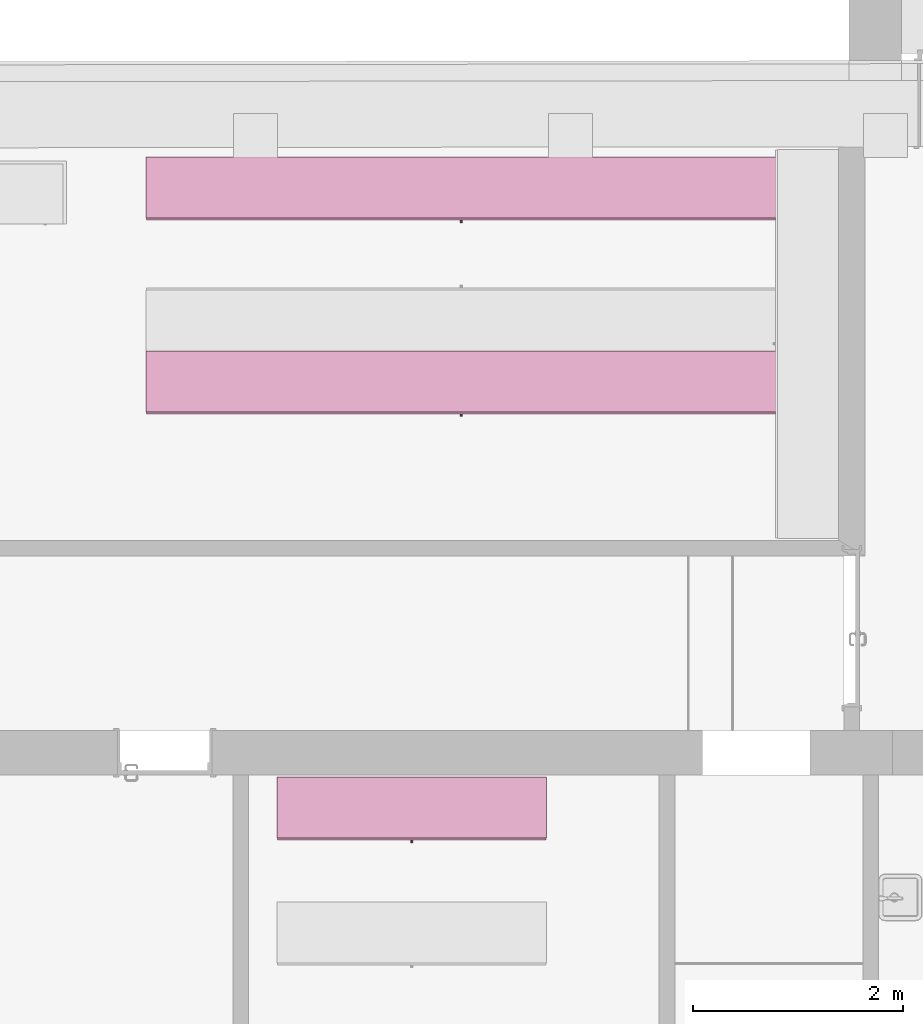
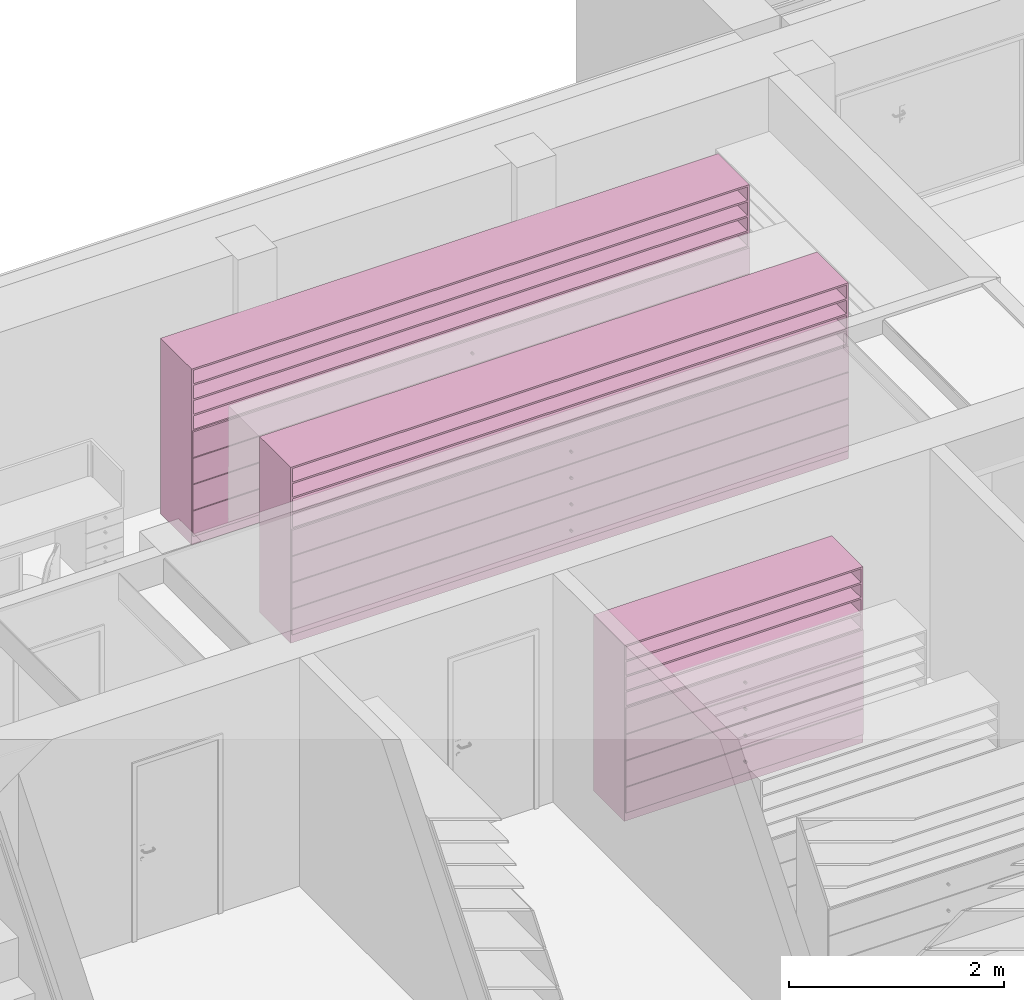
# One storey, part 99 of 127: 3 furnishings.
"""IFC2X3 building model written with IfcOpenShell, lengths in millimetres."""

from ifc_helpers import new_model, entity, si_unit, converted_unit, derived_unit, money_unit, direction, frame, origin_with_axes, place, context, subcontext, project, spatial, faceted_brep, source, transform, mapped, type_object, element, save


model = new_model("IFC2X3")

# Units and contexts
model_context = context("Model", 3, precision=1e-05, world=origin_with_axes(), true_north=direction((0.0, 1.0)))
body_context = subcontext(model_context, "Body", "Model", "MODEL_VIEW")
ifc_project = project(units=[si_unit("LENGTHUNIT", "METRE", prefix="MILLI"), si_unit("AREAUNIT", "SQUARE_METRE"), si_unit("VOLUMEUNIT", "CUBIC_METRE"), converted_unit("PLANEANGLEUNIT", "DEGREE", entity("IfcPlaneAngleMeasure", 0.0174532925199), si_unit("PLANEANGLEUNIT", "RADIAN"), dimensions=[0, 0, 0, 0, 0, 0, 0]), si_unit("SOLIDANGLEUNIT", "STERADIAN"), money_unit("EUR"), converted_unit("TIMEUNIT", "Year", entity("IfcTimeMeasure", 31556926.0), si_unit("TIMEUNIT", "SECOND"), dimensions=[0, 0, 1, 0, 0, 0, 0]), si_unit("MASSUNIT", "GRAM", prefix="KILO"), si_unit("THERMODYNAMICTEMPERATUREUNIT", "DEGREE_CELSIUS"), si_unit("LUMINOUSINTENSITYUNIT", "LUMEN"), si_unit("ENERGYUNIT", "JOULE", prefix="MEGA"), derived_unit("THERMALCONDUCTANCEUNIT", [(si_unit("POWERUNIT", "WATT"), 1), (si_unit("LENGTHUNIT", "METRE"), -1), (si_unit("THERMODYNAMICTEMPERATUREUNIT", "KELVIN"), -1)]), derived_unit("SPECIFICHEATCAPACITYUNIT", [(si_unit("ENERGYUNIT", "JOULE"), 1), (si_unit("MASSUNIT", "GRAM", prefix="KILO"), -1), (si_unit("THERMODYNAMICTEMPERATUREUNIT", "KELVIN"), -1)]), derived_unit("MASSDENSITYUNIT", [(si_unit("MASSUNIT", "GRAM", prefix="KILO"), 1), (si_unit("VOLUMEUNIT", "CUBIC_METRE"), -1)])], contexts=[model_context])

# Site, building, storey
site_placement = place(None, origin_with_axes())
site = spatial("IfcSite", under=ifc_project, at=site_placement, Name="Site", CompositionType="ELEMENT")
building_placement = place(site_placement, origin_with_axes())
building = spatial("IfcBuilding", under=site, at=building_placement, Name="Building", CompositionType="ELEMENT")
storey_placement = place(building_placement, origin_with_axes())
storey = spatial("IfcBuildingStorey", under=building, at=storey_placement, Name="1 KORRUS", CompositionType="ELEMENT", Elevation=0.0)

# Furnishings
furnishing_element_type_1 = type_object("IfcFurnishingElementType", Name="Model Element 41")
shared_shape_1 = source(origin_with_axes(), body_context, "Body", "Brep", [
    faceted_brep([(-2565.40668942, 19.0, 0.0), (-2565.40668942, 600.000000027, 0.0), (0.0, 600.000000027, 0.0), (0.0, 19.0, 0.0), (-2565.40668942, 19.0, 100.0), (-2565.40668942, 600.000000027, 100.0), (0.0, 600.000000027, 100.0), (0.0, 19.0, 100.0)], [[[0, 1, 2, 3]], [[0, 4, 5, 1]], [[1, 5, 6, 2]], [[2, 6, 7, 3]], [[3, 7, 4, 0]], [[7, 6, 5, 4]]]),
    faceted_brep([(-19.0, 600.000000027, 119.0), (-19.0, 600.000000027, 1981.0), (-19.0, 581.000000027, 1981.0), (-19.0, 581.000000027, 119.0), (-2546.40668942, 600.000000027, 119.0), (-2546.40668942, 600.000000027, 1981.0), (-2546.40668942, 581.000000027, 1981.0), (-2546.40668942, 581.000000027, 119.0)], [[[0, 1, 2, 3]], [[4, 5, 1, 0]], [[1, 5, 6, 2]], [[3, 2, 6, 7]], [[0, 3, 7, 4]], [[7, 6, 5, 4]]]),
    faceted_brep([(-2565.40668942, 19.0, 100.0), (-2565.40668942, 600.000000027, 100.0), (-2546.40668942, 600.000000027, 100.0), (-2546.40668942, 19.0, 100.0), (-2565.40668942, 19.0, 2000.0), (-2565.40668942, 600.000000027, 2000.0), (-2546.40668942, 600.000000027, 2000.0), (-2546.40668942, 19.0, 2000.0)], [[[0, 1, 2, 3]], [[0, 4, 5, 1]], [[1, 5, 6, 2]], [[2, 6, 7, 3]], [[3, 7, 4, 0]], [[7, 6, 5, 4]]]),
    faceted_brep([(-19.0, 19.0, 100.0), (-19.0, 600.000000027, 100.0), (0.0, 600.000000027, 100.0), (0.0, 19.0, 100.0), (-19.0, 19.0, 2000.0), (-19.0, 600.000000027, 2000.0), (0.0, 600.000000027, 2000.0), (0.0, 19.0, 2000.0)], [[[0, 1, 2, 3]], [[0, 4, 5, 1]], [[1, 5, 6, 2]], [[2, 6, 7, 3]], [[3, 7, 4, 0]], [[7, 6, 5, 4]]]),
    faceted_brep([(-2546.40668942, 19.0, 100.0), (-2546.40668942, 600.000000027, 100.0), (-19.0, 600.000000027, 100.0), (-19.0, 19.0, 100.0), (-2546.40668942, 19.0, 119.0), (-2546.40668942, 600.000000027, 119.0), (-19.0, 600.000000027, 119.0), (-19.0, 19.0, 119.0)], [[[0, 1, 2, 3]], [[0, 4, 5, 1]], [[1, 5, 6, 2]], [[2, 6, 7, 3]], [[3, 7, 4, 0]], [[7, 6, 5, 4]]]),
    faceted_brep([(-2546.40668942, 19.0, 1981.0), (-2546.40668942, 600.000000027, 1981.0), (-19.0, 600.000000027, 1981.0), (-19.0, 19.0, 1981.0), (-2546.40668942, 19.0, 2000.0), (-2546.40668942, 600.000000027, 2000.0), (-19.0, 600.000000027, 2000.0), (-19.0, 19.0, 2000.0)], [[[0, 1, 2, 3]], [[0, 4, 5, 1]], [[1, 5, 6, 2]], [[2, 6, 7, 3]], [[3, 7, 4, 0]], [[7, 6, 5, 4]]]),
    faceted_brep([(-5.0, 19.0, 105.0), (-5.0, 0.0, 105.0), (-2560.40668942, 0.0, 105.0), (-2560.40668942, 19.0, 105.0), (-5.0, 19.0, 395.0), (-5.0, 0.0, 395.0), (-2560.40668942, 0.0, 395.0), (-2560.40668942, 19.0, 395.0)], [[[0, 1, 2, 3]], [[4, 5, 1, 0]], [[1, 5, 6, 2]], [[3, 2, 6, 7]], [[0, 3, 7, 4]], [[7, 6, 5, 4]]]),
    faceted_brep([(-1293.09564955, 0.0, 244.0), (-1294.70334471, 0.0, 250.0), (-1293.09564955, 0.0, 256.0), (-1288.70334471, 0.0, 260.392304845), (-1282.70334471, 0.0, 262.0), (-1276.70334471, 0.0, 260.392304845), (-1272.31103986, 0.0, 256.0), (-1270.70334471, 0.0, 250.0), (-1272.31103986, 0.0, 244.0), (-1276.70334471, 0.0, 239.607695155), (-1282.70334471, 0.0, 238.0), (-1288.70334471, 0.0, 239.607695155), (-1293.09564955, -25.0, 244.0), (-1294.70334471, -25.0, 250.0), (-1293.09564955, -25.0, 256.0), (-1288.70334471, -25.0, 260.392304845), (-1282.70334471, -25.0, 262.0), (-1276.70334471, -25.0, 260.392304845), (-1272.31103986, -25.0, 256.0), (-1270.70334471, -25.0, 250.0), (-1272.31103986, -25.0, 244.0), (-1276.70334471, -25.0, 239.607695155), (-1282.70334471, -25.0, 238.0), (-1288.70334471, -25.0, 239.607695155)], [[[0, 1, 2, 3, 4, 5, 6, 7, 8, 9, 10, 11]], [[0, 12, 13, 1]], [[1, 13, 14, 2]], [[2, 14, 15, 3]], [[3, 15, 16, 4]], [[4, 16, 17, 5]], [[5, 17, 18, 6]], [[6, 18, 19, 7]], [[7, 19, 20, 8]], [[8, 20, 21, 9]], [[9, 21, 22, 10]], [[10, 22, 23, 11]], [[11, 23, 12, 0]], [[12, 23, 22, 21, 20, 19, 18, 17, 16, 15, 14, 13]]]),
    faceted_brep([(-5.0, 19.0, 405.0), (-5.0, 0.0, 405.0), (-2560.40668942, 0.0, 405.0), (-2560.40668942, 19.0, 405.0), (-5.0, 19.0, 695.0), (-5.0, 0.0, 695.0), (-2560.40668942, 0.0, 695.0), (-2560.40668942, 19.0, 695.0)], [[[0, 1, 2, 3]], [[4, 5, 1, 0]], [[1, 5, 6, 2]], [[3, 2, 6, 7]], [[0, 3, 7, 4]], [[7, 6, 5, 4]]]),
    faceted_brep([(-1293.09564955, 0.0, 544.0), (-1294.70334471, 0.0, 550.0), (-1293.09564955, 0.0, 556.0), (-1288.70334471, 0.0, 560.392304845), (-1282.70334471, 0.0, 562.0), (-1276.70334471, 0.0, 560.392304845), (-1272.31103986, 0.0, 556.0), (-1270.70334471, 0.0, 550.0), (-1272.31103986, 0.0, 544.0), (-1276.70334471, 0.0, 539.607695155), (-1282.70334471, 0.0, 538.0), (-1288.70334471, 0.0, 539.607695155), (-1293.09564955, -25.0, 544.0), (-1294.70334471, -25.0, 550.0), (-1293.09564955, -25.0, 556.0), (-1288.70334471, -25.0, 560.392304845), (-1282.70334471, -25.0, 562.0), (-1276.70334471, -25.0, 560.392304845), (-1272.31103986, -25.0, 556.0), (-1270.70334471, -25.0, 550.0), (-1272.31103986, -25.0, 544.0), (-1276.70334471, -25.0, 539.607695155), (-1282.70334471, -25.0, 538.0), (-1288.70334471, -25.0, 539.607695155)], [[[0, 1, 2, 3, 4, 5, 6, 7, 8, 9, 10, 11]], [[0, 12, 13, 1]], [[1, 13, 14, 2]], [[2, 14, 15, 3]], [[3, 15, 16, 4]], [[4, 16, 17, 5]], [[5, 17, 18, 6]], [[6, 18, 19, 7]], [[7, 19, 20, 8]], [[8, 20, 21, 9]], [[9, 21, 22, 10]], [[10, 22, 23, 11]], [[11, 23, 12, 0]], [[12, 23, 22, 21, 20, 19, 18, 17, 16, 15, 14, 13]]]),
    faceted_brep([(-5.0, 19.0, 705.0), (-5.0, 0.0, 705.0), (-2560.40668942, 0.0, 705.0), (-2560.40668942, 19.0, 705.0), (-5.0, 19.0, 995.0), (-5.0, 0.0, 995.0), (-2560.40668942, 0.0, 995.0), (-2560.40668942, 19.0, 995.0)], [[[0, 1, 2, 3]], [[4, 5, 1, 0]], [[1, 5, 6, 2]], [[3, 2, 6, 7]], [[0, 3, 7, 4]], [[7, 6, 5, 4]]]),
    faceted_brep([(-1293.09564955, 0.0, 844.0), (-1294.70334471, 0.0, 850.0), (-1293.09564955, 0.0, 856.0), (-1288.70334471, 0.0, 860.392304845), (-1282.70334471, 0.0, 862.0), (-1276.70334471, 0.0, 860.392304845), (-1272.31103986, 0.0, 856.0), (-1270.70334471, 0.0, 850.0), (-1272.31103986, 0.0, 844.0), (-1276.70334471, 0.0, 839.607695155), (-1282.70334471, 0.0, 838.0), (-1288.70334471, 0.0, 839.607695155), (-1293.09564955, -25.0, 844.0), (-1294.70334471, -25.0, 850.0), (-1293.09564955, -25.0, 856.0), (-1288.70334471, -25.0, 860.392304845), (-1282.70334471, -25.0, 862.0), (-1276.70334471, -25.0, 860.392304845), (-1272.31103986, -25.0, 856.0), (-1270.70334471, -25.0, 850.0), (-1272.31103986, -25.0, 844.0), (-1276.70334471, -25.0, 839.607695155), (-1282.70334471, -25.0, 838.0), (-1288.70334471, -25.0, 839.607695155)], [[[0, 1, 2, 3, 4, 5, 6, 7, 8, 9, 10, 11]], [[0, 12, 13, 1]], [[1, 13, 14, 2]], [[2, 14, 15, 3]], [[3, 15, 16, 4]], [[4, 16, 17, 5]], [[5, 17, 18, 6]], [[6, 18, 19, 7]], [[7, 19, 20, 8]], [[8, 20, 21, 9]], [[9, 21, 22, 10]], [[10, 22, 23, 11]], [[11, 23, 12, 0]], [[12, 23, 22, 21, 20, 19, 18, 17, 16, 15, 14, 13]]]),
    faceted_brep([(-5.0, 19.0, 1005.0), (-5.0, 0.0, 1005.0), (-2560.40668942, 0.0, 1005.0), (-2560.40668942, 19.0, 1005.0), (-5.0, 19.0, 1295.0), (-5.0, 0.0, 1295.0), (-2560.40668942, 0.0, 1295.0), (-2560.40668942, 19.0, 1295.0)], [[[0, 1, 2, 3]], [[4, 5, 1, 0]], [[1, 5, 6, 2]], [[3, 2, 6, 7]], [[0, 3, 7, 4]], [[7, 6, 5, 4]]]),
    faceted_brep([(-1293.09564955, 0.0, 1144.0), (-1294.70334471, 0.0, 1150.0), (-1293.09564955, 0.0, 1156.0), (-1288.70334471, 0.0, 1160.39230485), (-1282.70334471, 0.0, 1162.0), (-1276.70334471, 0.0, 1160.39230485), (-1272.31103986, 0.0, 1156.0), (-1270.70334471, 0.0, 1150.0), (-1272.31103986, 0.0, 1144.0), (-1276.70334471, 0.0, 1139.60769515), (-1282.70334471, 0.0, 1138.0), (-1288.70334471, 0.0, 1139.60769515), (-1293.09564955, -25.0, 1144.0), (-1294.70334471, -25.0, 1150.0), (-1293.09564955, -25.0, 1156.0), (-1288.70334471, -25.0, 1160.39230485), (-1282.70334471, -25.0, 1162.0), (-1276.70334471, -25.0, 1160.39230485), (-1272.31103986, -25.0, 1156.0), (-1270.70334471, -25.0, 1150.0), (-1272.31103986, -25.0, 1144.0), (-1276.70334471, -25.0, 1139.60769515), (-1282.70334471, -25.0, 1138.0), (-1288.70334471, -25.0, 1139.60769515)], [[[0, 1, 2, 3, 4, 5, 6, 7, 8, 9, 10, 11]], [[0, 12, 13, 1]], [[1, 13, 14, 2]], [[2, 14, 15, 3]], [[3, 15, 16, 4]], [[4, 16, 17, 5]], [[5, 17, 18, 6]], [[6, 18, 19, 7]], [[7, 19, 20, 8]], [[8, 20, 21, 9]], [[9, 21, 22, 10]], [[10, 22, 23, 11]], [[11, 23, 12, 0]], [[12, 23, 22, 21, 20, 19, 18, 17, 16, 15, 14, 13]]]),
    faceted_brep([(-19.0, 19.0, 390.5), (-19.0, 19.0, 409.5), (-2546.40668942, 19.0, 409.5), (-2546.40668942, 19.0, 390.5), (-19.0, 581.000000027, 390.5), (-19.0, 581.000000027, 409.5), (-2546.40668942, 581.000000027, 409.5), (-2546.40668942, 581.000000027, 390.5)], [[[0, 1, 2, 3]], [[4, 5, 1, 0]], [[1, 5, 6, 2]], [[3, 2, 6, 7]], [[0, 3, 7, 4]], [[7, 6, 5, 4]]]),
    faceted_brep([(-19.0, 19.0, 690.5), (-19.0, 19.0, 709.5), (-2546.40668942, 19.0, 709.5), (-2546.40668942, 19.0, 690.5), (-19.0, 581.000000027, 690.5), (-19.0, 581.000000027, 709.5), (-2546.40668942, 581.000000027, 709.5), (-2546.40668942, 581.000000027, 690.5)], [[[0, 1, 2, 3]], [[4, 5, 1, 0]], [[1, 5, 6, 2]], [[3, 2, 6, 7]], [[0, 3, 7, 4]], [[7, 6, 5, 4]]]),
    faceted_brep([(-19.0, 19.0, 990.5), (-19.0, 19.0, 1009.5), (-2546.40668942, 19.0, 1009.5), (-2546.40668942, 19.0, 990.5), (-19.0, 581.000000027, 990.5), (-19.0, 581.000000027, 1009.5), (-2546.40668942, 581.000000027, 1009.5), (-2546.40668942, 581.000000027, 990.5)], [[[0, 1, 2, 3]], [[4, 5, 1, 0]], [[1, 5, 6, 2]], [[3, 2, 6, 7]], [[0, 3, 7, 4]], [[7, 6, 5, 4]]]),
    faceted_brep([(-19.0, 19.0, 1290.5), (-19.0, 19.0, 1309.5), (-2546.40668942, 19.0, 1309.5), (-2546.40668942, 19.0, 1290.5), (-19.0, 581.000000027, 1290.5), (-19.0, 581.000000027, 1309.5), (-2546.40668942, 581.000000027, 1309.5), (-2546.40668942, 581.000000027, 1290.5)], [[[0, 1, 2, 3]], [[4, 5, 1, 0]], [[1, 5, 6, 2]], [[3, 2, 6, 7]], [[0, 3, 7, 4]], [[7, 6, 5, 4]]]),
    faceted_brep([(-2546.40668942, 19.0, 1463.125), (-2546.40668942, 581.000000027, 1463.125), (-19.0, 581.000000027, 1463.125), (-19.0, 19.0, 1463.125), (-2546.40668942, 19.0, 1482.125), (-2546.40668942, 581.000000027, 1482.125), (-19.0, 581.000000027, 1482.125), (-19.0, 19.0, 1482.125)], [[[0, 1, 2, 3]], [[0, 4, 5, 1]], [[1, 5, 6, 2]], [[2, 6, 7, 3]], [[3, 7, 4, 0]], [[7, 6, 5, 4]]]),
    faceted_brep([(-2546.40668942, 19.0, 1635.75), (-2546.40668942, 581.000000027, 1635.75), (-19.0, 581.000000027, 1635.75), (-19.0, 19.0, 1635.75), (-2546.40668942, 19.0, 1654.75), (-2546.40668942, 581.000000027, 1654.75), (-19.0, 581.000000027, 1654.75), (-19.0, 19.0, 1654.75)], [[[0, 1, 2, 3]], [[0, 4, 5, 1]], [[1, 5, 6, 2]], [[2, 6, 7, 3]], [[3, 7, 4, 0]], [[7, 6, 5, 4]]]),
    faceted_brep([(-2546.40668942, 19.0, 1808.375), (-2546.40668942, 581.000000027, 1808.375), (-19.0, 581.000000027, 1808.375), (-19.0, 19.0, 1808.375), (-2546.40668942, 19.0, 1827.375), (-2546.40668942, 581.000000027, 1827.375), (-19.0, 581.000000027, 1827.375), (-19.0, 19.0, 1827.375)], [[[0, 1, 2, 3]], [[0, 4, 5, 1]], [[1, 5, 6, 2]], [[2, 6, 7, 3]], [[3, 7, 4, 0]], [[7, 6, 5, 4]]]),
])
furnishing_placement = place(storey_placement, frame((36720.1311695, 64593.4546174, 0.0), z_axis=(0.0, 0.0, 1.0), x_axis=(1.0, 0.0, 0.0)))
element("IfcFurnishingElement", 1, at=furnishing_placement, inside=storey, type_object=furnishing_element_type_1, Name="FU - 003", context=body_context, shape_type="MappedRepresentation", body=[
    mapped(shared_shape_1, transform((0.0, 0.0, 0.0))),
])
furnishing_element_type_2 = type_object("IfcFurnishingElementType", Name="Model Element 38")
shared_shape_2 = source(origin_with_axes(), body_context, "Body", "Brep", [
    faceted_brep([(-6000.0, 19.0, 0.0), (-6000.0, 600.000000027, 0.0), (0.0, 600.000000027, 0.0), (0.0, 19.0, 0.0), (-6000.0, 19.0, 100.0), (-6000.0, 600.000000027, 100.0), (0.0, 600.000000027, 100.0), (0.0, 19.0, 100.0)], [[[0, 1, 2, 3]], [[0, 4, 5, 1]], [[1, 5, 6, 2]], [[2, 6, 7, 3]], [[3, 7, 4, 0]], [[7, 6, 5, 4]]]),
    faceted_brep([(-19.0, 600.000000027, 119.0), (-19.0, 600.000000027, 1981.0), (-19.0, 581.000000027, 1981.0), (-19.0, 581.000000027, 119.0), (-5981.0, 600.000000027, 119.0), (-5981.0, 600.000000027, 1981.0), (-5981.0, 581.000000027, 1981.0), (-5981.0, 581.000000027, 119.0)], [[[0, 1, 2, 3]], [[4, 5, 1, 0]], [[1, 5, 6, 2]], [[3, 2, 6, 7]], [[0, 3, 7, 4]], [[7, 6, 5, 4]]]),
    faceted_brep([(-6000.0, 19.0, 100.0), (-6000.0, 600.000000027, 100.0), (-5981.0, 600.000000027, 100.0), (-5981.0, 19.0, 100.0), (-6000.0, 19.0, 2000.0), (-6000.0, 600.000000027, 2000.0), (-5981.0, 600.000000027, 2000.0), (-5981.0, 19.0, 2000.0)], [[[0, 1, 2, 3]], [[0, 4, 5, 1]], [[1, 5, 6, 2]], [[2, 6, 7, 3]], [[3, 7, 4, 0]], [[7, 6, 5, 4]]]),
    faceted_brep([(-19.0, 19.0, 100.0), (-19.0, 600.000000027, 100.0), (0.0, 600.000000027, 100.0), (0.0, 19.0, 100.0), (-19.0, 19.0, 2000.0), (-19.0, 600.000000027, 2000.0), (0.0, 600.000000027, 2000.0), (0.0, 19.0, 2000.0)], [[[0, 1, 2, 3]], [[0, 4, 5, 1]], [[1, 5, 6, 2]], [[2, 6, 7, 3]], [[3, 7, 4, 0]], [[7, 6, 5, 4]]]),
    faceted_brep([(-5981.0, 19.0, 100.0), (-5981.0, 600.000000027, 100.0), (-19.0, 600.000000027, 100.0), (-19.0, 19.0, 100.0), (-5981.0, 19.0, 119.0), (-5981.0, 600.000000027, 119.0), (-19.0, 600.000000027, 119.0), (-19.0, 19.0, 119.0)], [[[0, 1, 2, 3]], [[0, 4, 5, 1]], [[1, 5, 6, 2]], [[2, 6, 7, 3]], [[3, 7, 4, 0]], [[7, 6, 5, 4]]]),
    faceted_brep([(-5981.0, 19.0, 1981.0), (-5981.0, 600.000000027, 1981.0), (-19.0, 600.000000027, 1981.0), (-19.0, 19.0, 1981.0), (-5981.0, 19.0, 2000.0), (-5981.0, 600.000000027, 2000.0), (-19.0, 600.000000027, 2000.0), (-19.0, 19.0, 2000.0)], [[[0, 1, 2, 3]], [[0, 4, 5, 1]], [[1, 5, 6, 2]], [[2, 6, 7, 3]], [[3, 7, 4, 0]], [[7, 6, 5, 4]]]),
    faceted_brep([(-5.0, 19.0, 105.0), (-5.0, 0.0, 105.0), (-5995.0, 0.0, 105.0), (-5995.0, 19.0, 105.0), (-5.0, 19.0, 395.0), (-5.0, 0.0, 395.0), (-5995.0, 0.0, 395.0), (-5995.0, 19.0, 395.0)], [[[0, 1, 2, 3]], [[4, 5, 1, 0]], [[1, 5, 6, 2]], [[3, 2, 6, 7]], [[0, 3, 7, 4]], [[7, 6, 5, 4]]]),
    faceted_brep([(-3010.39230485, 0.0, 244.0), (-3012.0, 0.0, 250.0), (-3010.39230485, 0.0, 256.0), (-3006.0, 0.0, 260.392304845), (-3000.0, 0.0, 262.0), (-2994.0, 0.0, 260.392304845), (-2989.60769515, 0.0, 256.0), (-2988.0, 0.0, 250.0), (-2989.60769515, 0.0, 244.0), (-2994.0, 0.0, 239.607695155), (-3000.0, 0.0, 238.0), (-3006.0, 0.0, 239.607695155), (-3010.39230485, -25.0, 244.0), (-3012.0, -25.0, 250.0), (-3010.39230485, -25.0, 256.0), (-3006.0, -25.0, 260.392304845), (-3000.0, -25.0, 262.0), (-2994.0, -25.0, 260.392304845), (-2989.60769515, -25.0, 256.0), (-2988.0, -25.0, 250.0), (-2989.60769515, -25.0, 244.0), (-2994.0, -25.0, 239.607695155), (-3000.0, -25.0, 238.0), (-3006.0, -25.0, 239.607695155)], [[[0, 1, 2, 3, 4, 5, 6, 7, 8, 9, 10, 11]], [[0, 12, 13, 1]], [[1, 13, 14, 2]], [[2, 14, 15, 3]], [[3, 15, 16, 4]], [[4, 16, 17, 5]], [[5, 17, 18, 6]], [[6, 18, 19, 7]], [[7, 19, 20, 8]], [[8, 20, 21, 9]], [[9, 21, 22, 10]], [[10, 22, 23, 11]], [[11, 23, 12, 0]], [[12, 23, 22, 21, 20, 19, 18, 17, 16, 15, 14, 13]]]),
    faceted_brep([(-5.0, 19.0, 405.0), (-5.0, 0.0, 405.0), (-5995.0, 0.0, 405.0), (-5995.0, 19.0, 405.0), (-5.0, 19.0, 695.0), (-5.0, 0.0, 695.0), (-5995.0, 0.0, 695.0), (-5995.0, 19.0, 695.0)], [[[0, 1, 2, 3]], [[4, 5, 1, 0]], [[1, 5, 6, 2]], [[3, 2, 6, 7]], [[0, 3, 7, 4]], [[7, 6, 5, 4]]]),
    faceted_brep([(-3010.39230485, 0.0, 544.0), (-3012.0, 0.0, 550.0), (-3010.39230485, 0.0, 556.0), (-3006.0, 0.0, 560.392304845), (-3000.0, 0.0, 562.0), (-2994.0, 0.0, 560.392304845), (-2989.60769515, 0.0, 556.0), (-2988.0, 0.0, 550.0), (-2989.60769515, 0.0, 544.0), (-2994.0, 0.0, 539.607695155), (-3000.0, 0.0, 538.0), (-3006.0, 0.0, 539.607695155), (-3010.39230485, -25.0, 544.0), (-3012.0, -25.0, 550.0), (-3010.39230485, -25.0, 556.0), (-3006.0, -25.0, 560.392304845), (-3000.0, -25.0, 562.0), (-2994.0, -25.0, 560.392304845), (-2989.60769515, -25.0, 556.0), (-2988.0, -25.0, 550.0), (-2989.60769515, -25.0, 544.0), (-2994.0, -25.0, 539.607695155), (-3000.0, -25.0, 538.0), (-3006.0, -25.0, 539.607695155)], [[[0, 1, 2, 3, 4, 5, 6, 7, 8, 9, 10, 11]], [[0, 12, 13, 1]], [[1, 13, 14, 2]], [[2, 14, 15, 3]], [[3, 15, 16, 4]], [[4, 16, 17, 5]], [[5, 17, 18, 6]], [[6, 18, 19, 7]], [[7, 19, 20, 8]], [[8, 20, 21, 9]], [[9, 21, 22, 10]], [[10, 22, 23, 11]], [[11, 23, 12, 0]], [[12, 23, 22, 21, 20, 19, 18, 17, 16, 15, 14, 13]]]),
    faceted_brep([(-5.0, 19.0, 705.0), (-5.0, 0.0, 705.0), (-5995.0, 0.0, 705.0), (-5995.0, 19.0, 705.0), (-5.0, 19.0, 995.0), (-5.0, 0.0, 995.0), (-5995.0, 0.0, 995.0), (-5995.0, 19.0, 995.0)], [[[0, 1, 2, 3]], [[4, 5, 1, 0]], [[1, 5, 6, 2]], [[3, 2, 6, 7]], [[0, 3, 7, 4]], [[7, 6, 5, 4]]]),
    faceted_brep([(-3010.39230485, 0.0, 844.0), (-3012.0, 0.0, 850.0), (-3010.39230485, 0.0, 856.0), (-3006.0, 0.0, 860.392304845), (-3000.0, 0.0, 862.0), (-2994.0, 0.0, 860.392304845), (-2989.60769515, 0.0, 856.0), (-2988.0, 0.0, 850.0), (-2989.60769515, 0.0, 844.0), (-2994.0, 0.0, 839.607695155), (-3000.0, 0.0, 838.0), (-3006.0, 0.0, 839.607695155), (-3010.39230485, -25.0, 844.0), (-3012.0, -25.0, 850.0), (-3010.39230485, -25.0, 856.0), (-3006.0, -25.0, 860.392304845), (-3000.0, -25.0, 862.0), (-2994.0, -25.0, 860.392304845), (-2989.60769515, -25.0, 856.0), (-2988.0, -25.0, 850.0), (-2989.60769515, -25.0, 844.0), (-2994.0, -25.0, 839.607695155), (-3000.0, -25.0, 838.0), (-3006.0, -25.0, 839.607695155)], [[[0, 1, 2, 3, 4, 5, 6, 7, 8, 9, 10, 11]], [[0, 12, 13, 1]], [[1, 13, 14, 2]], [[2, 14, 15, 3]], [[3, 15, 16, 4]], [[4, 16, 17, 5]], [[5, 17, 18, 6]], [[6, 18, 19, 7]], [[7, 19, 20, 8]], [[8, 20, 21, 9]], [[9, 21, 22, 10]], [[10, 22, 23, 11]], [[11, 23, 12, 0]], [[12, 23, 22, 21, 20, 19, 18, 17, 16, 15, 14, 13]]]),
    faceted_brep([(-5.0, 19.0, 1005.0), (-5.0, 0.0, 1005.0), (-5995.0, 0.0, 1005.0), (-5995.0, 19.0, 1005.0), (-5.0, 19.0, 1295.0), (-5.0, 0.0, 1295.0), (-5995.0, 0.0, 1295.0), (-5995.0, 19.0, 1295.0)], [[[0, 1, 2, 3]], [[4, 5, 1, 0]], [[1, 5, 6, 2]], [[3, 2, 6, 7]], [[0, 3, 7, 4]], [[7, 6, 5, 4]]]),
    faceted_brep([(-3010.39230485, 0.0, 1144.0), (-3012.0, 0.0, 1150.0), (-3010.39230485, 0.0, 1156.0), (-3006.0, 0.0, 1160.39230485), (-3000.0, 0.0, 1162.0), (-2994.0, 0.0, 1160.39230485), (-2989.60769515, 0.0, 1156.0), (-2988.0, 0.0, 1150.0), (-2989.60769515, 0.0, 1144.0), (-2994.0, 0.0, 1139.60769515), (-3000.0, 0.0, 1138.0), (-3006.0, 0.0, 1139.60769515), (-3010.39230485, -25.0, 1144.0), (-3012.0, -25.0, 1150.0), (-3010.39230485, -25.0, 1156.0), (-3006.0, -25.0, 1160.39230485), (-3000.0, -25.0, 1162.0), (-2994.0, -25.0, 1160.39230485), (-2989.60769515, -25.0, 1156.0), (-2988.0, -25.0, 1150.0), (-2989.60769515, -25.0, 1144.0), (-2994.0, -25.0, 1139.60769515), (-3000.0, -25.0, 1138.0), (-3006.0, -25.0, 1139.60769515)], [[[0, 1, 2, 3, 4, 5, 6, 7, 8, 9, 10, 11]], [[0, 12, 13, 1]], [[1, 13, 14, 2]], [[2, 14, 15, 3]], [[3, 15, 16, 4]], [[4, 16, 17, 5]], [[5, 17, 18, 6]], [[6, 18, 19, 7]], [[7, 19, 20, 8]], [[8, 20, 21, 9]], [[9, 21, 22, 10]], [[10, 22, 23, 11]], [[11, 23, 12, 0]], [[12, 23, 22, 21, 20, 19, 18, 17, 16, 15, 14, 13]]]),
    faceted_brep([(-19.0, 19.0, 390.5), (-19.0, 19.0, 409.5), (-5981.0, 19.0, 409.5), (-5981.0, 19.0, 390.5), (-19.0, 581.000000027, 390.5), (-19.0, 581.000000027, 409.5), (-5981.0, 581.000000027, 409.5), (-5981.0, 581.000000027, 390.5)], [[[0, 1, 2, 3]], [[4, 5, 1, 0]], [[1, 5, 6, 2]], [[3, 2, 6, 7]], [[0, 3, 7, 4]], [[7, 6, 5, 4]]]),
    faceted_brep([(-19.0, 19.0, 690.5), (-19.0, 19.0, 709.5), (-5981.0, 19.0, 709.5), (-5981.0, 19.0, 690.5), (-19.0, 581.000000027, 690.5), (-19.0, 581.000000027, 709.5), (-5981.0, 581.000000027, 709.5), (-5981.0, 581.000000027, 690.5)], [[[0, 1, 2, 3]], [[4, 5, 1, 0]], [[1, 5, 6, 2]], [[3, 2, 6, 7]], [[0, 3, 7, 4]], [[7, 6, 5, 4]]]),
    faceted_brep([(-19.0, 19.0, 990.5), (-19.0, 19.0, 1009.5), (-5981.0, 19.0, 1009.5), (-5981.0, 19.0, 990.5), (-19.0, 581.000000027, 990.5), (-19.0, 581.000000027, 1009.5), (-5981.0, 581.000000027, 1009.5), (-5981.0, 581.000000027, 990.5)], [[[0, 1, 2, 3]], [[4, 5, 1, 0]], [[1, 5, 6, 2]], [[3, 2, 6, 7]], [[0, 3, 7, 4]], [[7, 6, 5, 4]]]),
    faceted_brep([(-19.0, 19.0, 1290.5), (-19.0, 19.0, 1309.5), (-5981.0, 19.0, 1309.5), (-5981.0, 19.0, 1290.5), (-19.0, 581.000000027, 1290.5), (-19.0, 581.000000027, 1309.5), (-5981.0, 581.000000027, 1309.5), (-5981.0, 581.000000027, 1290.5)], [[[0, 1, 2, 3]], [[4, 5, 1, 0]], [[1, 5, 6, 2]], [[3, 2, 6, 7]], [[0, 3, 7, 4]], [[7, 6, 5, 4]]]),
    faceted_brep([(-5981.0, 19.0, 1463.125), (-5981.0, 581.000000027, 1463.125), (-19.0, 581.000000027, 1463.125), (-19.0, 19.0, 1463.125), (-5981.0, 19.0, 1482.125), (-5981.0, 581.000000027, 1482.125), (-19.0, 581.000000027, 1482.125), (-19.0, 19.0, 1482.125)], [[[0, 1, 2, 3]], [[0, 4, 5, 1]], [[1, 5, 6, 2]], [[2, 6, 7, 3]], [[3, 7, 4, 0]], [[7, 6, 5, 4]]]),
    faceted_brep([(-5981.0, 19.0, 1635.75), (-5981.0, 581.000000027, 1635.75), (-19.0, 581.000000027, 1635.75), (-19.0, 19.0, 1635.75), (-5981.0, 19.0, 1654.75), (-5981.0, 581.000000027, 1654.75), (-19.0, 581.000000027, 1654.75), (-19.0, 19.0, 1654.75)], [[[0, 1, 2, 3]], [[0, 4, 5, 1]], [[1, 5, 6, 2]], [[2, 6, 7, 3]], [[3, 7, 4, 0]], [[7, 6, 5, 4]]]),
    faceted_brep([(-5981.0, 19.0, 1808.375), (-5981.0, 581.000000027, 1808.375), (-19.0, 581.000000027, 1808.375), (-19.0, 19.0, 1808.375), (-5981.0, 19.0, 1827.375), (-5981.0, 581.000000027, 1827.375), (-19.0, 581.000000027, 1827.375), (-19.0, 19.0, 1827.375)], [[[0, 1, 2, 3]], [[0, 4, 5, 1]], [[1, 5, 6, 2]], [[2, 6, 7, 3]], [[3, 7, 4, 0]], [[7, 6, 5, 4]]]),
])
for number, where, z_axis, x_axis, name in (
    (2, (38908.1789758, 68653.7251142, 0.0), (0.0, 0.0, 1.0), (1.0, 0.0, 0.0), "FU - 003"),
    (3, (38908.1789758, 70497.7028041, 0.0), (0.0, 0.0, 1.0), (1.0, 0.0, 0.0), "FU - 003"),
):
    element("IfcFurnishingElement", number, at=place(storey_placement, frame(where, z_axis=z_axis, x_axis=x_axis)), inside=storey, type_object=furnishing_element_type_2, Name=name, context=body_context, shape_type="MappedRepresentation", body=[
        mapped(shared_shape_2, transform((0.0, 0.0, 0.0))),
    ])

save(model, "model.ifc")
